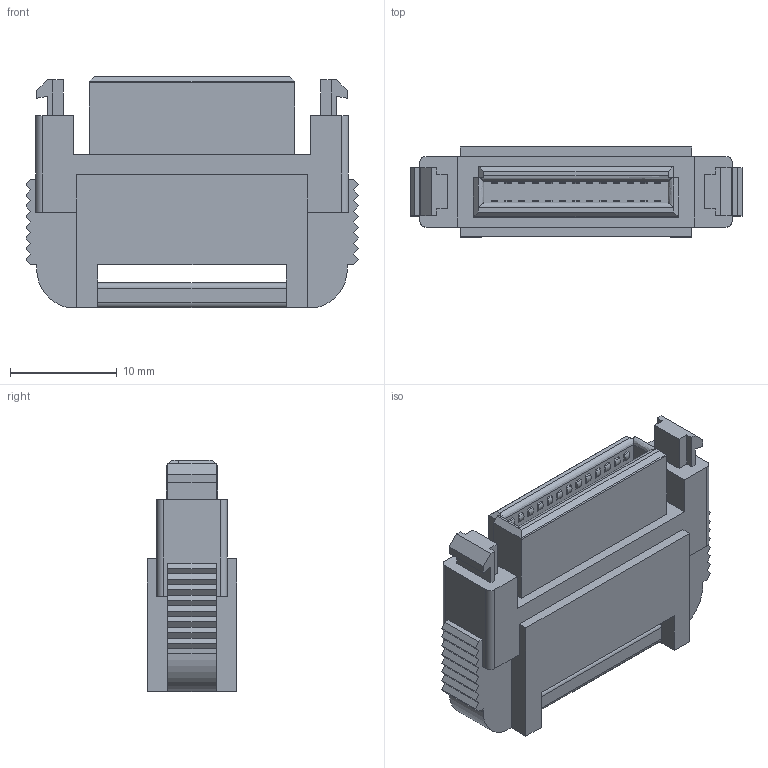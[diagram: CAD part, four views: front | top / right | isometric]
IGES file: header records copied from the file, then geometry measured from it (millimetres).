
Start section: Elysium IGES Interface
Global section: file name: C:\Users\1529\Desktop\‰c‹Æ‹Æ–±3DCADˆË—Š‘Î‰ž\8822-XXX-171X-F\P3D800_8822-026-171X-F.igs; native system: Creo Elements/Direct Modeling 20.4A  18-Oct-2021; preprocessor: Creo Element/Direct IGES_3D V2.2; author: Unknown; organization: Unknown; date: 20230328.103038; units: millimetre
Bounding box: 31.04 x 8.4 x 21.6 mm (x, y, z)
Volume: 3315.8 mm3; surface area: 2629.5 mm2
Topology: 1 solids, 1 shells, 454 faces, 1214 edges, 790 vertices
Faces by surface type: bspline 454
